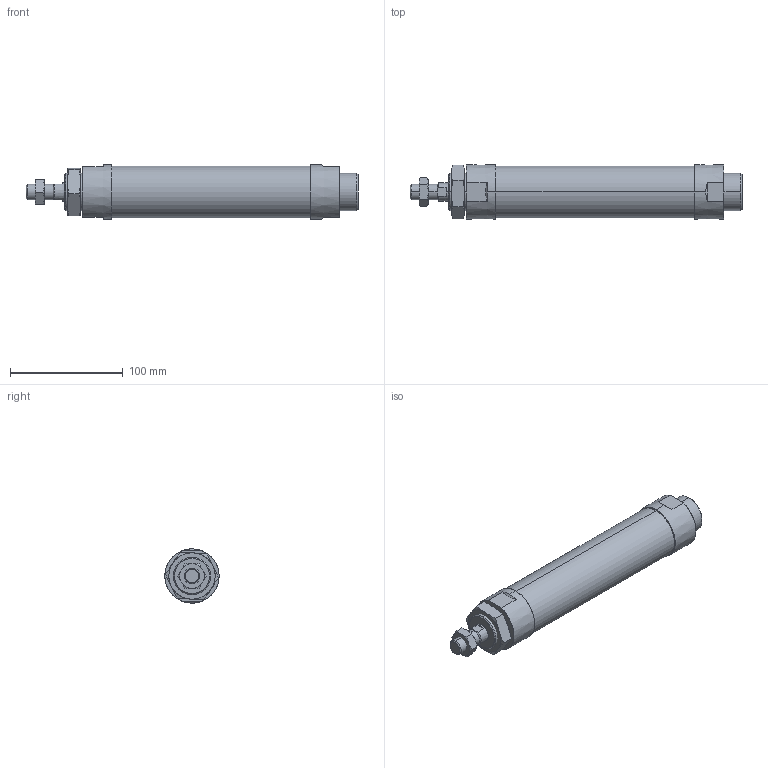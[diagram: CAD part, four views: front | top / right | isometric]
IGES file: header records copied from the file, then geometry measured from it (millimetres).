
Start section: SolidWorks IGES file using analytic representation for surfaces
Global section: file name: C:\Users\Toshiba\Desktop\J#2-40-125-N.IGS; native system: SolidWorks 2014; preprocessor: SolidWorks 2014; author: Toshiba; date: 160308.160030; units: millimetre
Bounding box: 294 x 48 x 48 mm (x, y, z)
Surface area: 48500.3 mm2 (no closed solid volume)
Topology: 0 solids, 0 shells, 94 faces, 1846 edges, 1842 vertices
Faces by surface type: bspline 57, revolution 37
